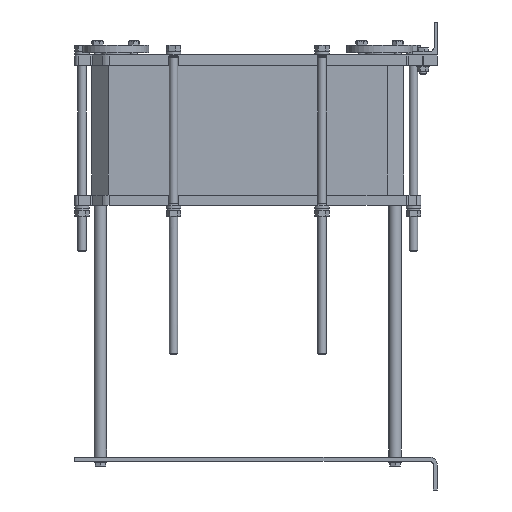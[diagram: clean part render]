
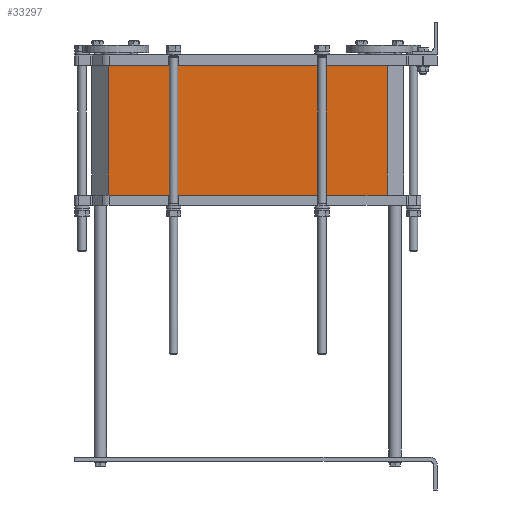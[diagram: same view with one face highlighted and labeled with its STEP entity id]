
A CAD part, left-side view. The second image highlights one B-rep face of the part: STEP entity #33297.
In plain terms, the highlighted planar face has unit normal (-1, 0, 0).
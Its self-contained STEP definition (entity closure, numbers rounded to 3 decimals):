
#1818 = VECTOR ( 'NONE', #43936, 1000. ) ;
#2610 = EDGE_CURVE ( 'NONE', #31272, #66457, #67567, .T. ) ;
#4725 = CARTESIAN_POINT ( 'NONE',  ( 29.6, 797.959, -104.9 ) ) ;
#6082 = EDGE_CURVE ( 'NONE', #86571, #31272, #60828, .T. ) ;
#6554 = EDGE_CURVE ( 'NONE', #66457, #17664, #46562, .T. ) ;
#13253 = CARTESIAN_POINT ( 'NONE',  ( 29.6, 817., -104.9 ) ) ;
#16057 = CARTESIAN_POINT ( 'NONE',  ( 29.6, 122.041, -104.9 ) ) ;
#17664 = VERTEX_POINT ( 'NONE', #53060 ) ;
#17973 = ORIENTED_EDGE ( 'NONE', *, *, #6082, .F. ) ;
#21883 = LINE ( 'NONE', #56715, #1818 ) ;
#31272 = VERTEX_POINT ( 'NONE', #49525 ) ;
#31414 = VECTOR ( 'NONE', #52136, 1000. ) ;
#31490 = DIRECTION ( 'NONE',  ( 0., 0., -1. ) ) ;
#33297 = ADVANCED_FACE ( 'NONE', ( #97305 ), #54573, .T. ) ;
#35535 = EDGE_CURVE ( 'NONE', #86571, #17664, #21883, .T. ) ;
#43936 = DIRECTION ( 'NONE',  ( 0., 0., -1. ) ) ;
#45796 = ORIENTED_EDGE ( 'NONE', *, *, #6554, .F. ) ;
#46562 = LINE ( 'NONE', #81354, #73633 ) ;
#49103 = ORIENTED_EDGE ( 'NONE', *, *, #2610, .F. ) ;
#49525 = CARTESIAN_POINT ( 'NONE',  ( 29.6, 122.041, -104.9 ) ) ;
#52136 = DIRECTION ( 'NONE',  ( 0., -1., 0. ) ) ;
#53060 = CARTESIAN_POINT ( 'NONE',  ( 29.6, 797.959, -419.9 ) ) ;
#53597 = DIRECTION ( 'NONE',  ( -1., 0., 0. ) ) ;
#54573 = PLANE ( 'NONE',  #58354 ) ;
#56715 = CARTESIAN_POINT ( 'NONE',  ( 29.6, 797.959, -104.9 ) ) ;
#58354 = AXIS2_PLACEMENT_3D ( 'NONE', #16057, #53597, #69674 ) ;
#59849 = ORIENTED_EDGE ( 'NONE', *, *, #35535, .T. ) ;
#60828 = LINE ( 'NONE', #13253, #31414 ) ;
#66457 = VERTEX_POINT ( 'NONE', #75559 ) ;
#67567 = LINE ( 'NONE', #92377, #73512 ) ;
#69674 = DIRECTION ( 'NONE',  ( 0., 1., 0. ) ) ;
#73512 = VECTOR ( 'NONE', #31490, 1000. ) ;
#73633 = VECTOR ( 'NONE', #97470, 1000. ) ;
#75559 = CARTESIAN_POINT ( 'NONE',  ( 29.6, 122.041, -419.9 ) ) ;
#79354 = EDGE_LOOP ( 'NONE', ( #17973, #59849, #45796, #49103 ) ) ;
#81354 = CARTESIAN_POINT ( 'NONE',  ( 29.6, 817., -419.9 ) ) ;
#86571 = VERTEX_POINT ( 'NONE', #4725 ) ;
#92377 = CARTESIAN_POINT ( 'NONE',  ( 29.6, 122.041, -104.9 ) ) ;
#97305 = FACE_OUTER_BOUND ( 'NONE', #79354, .T. ) ;
#97470 = DIRECTION ( 'NONE',  ( 0., 1., 0. ) ) ;
